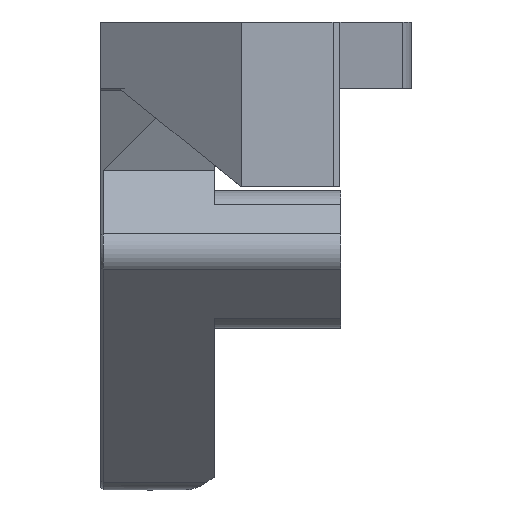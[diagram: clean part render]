
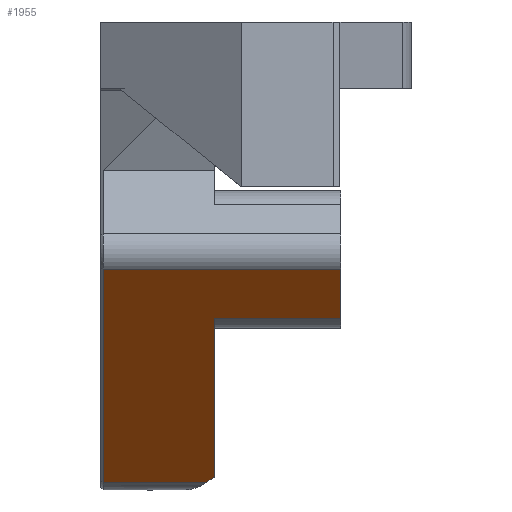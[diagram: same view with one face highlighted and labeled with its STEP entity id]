
A CAD part, left-side view. The second image highlights one B-rep face of the part: STEP entity #1955.
In plain terms, the highlighted planar face has unit normal (-0.707, 0, -0.707).
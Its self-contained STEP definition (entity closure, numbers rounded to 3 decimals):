
#24=ELLIPSE('',#2071,16.263,11.5);
#162=PLANE('',#2075);
#245=FACE_OUTER_BOUND('',#372,.T.);
#372=EDGE_LOOP('',(#1643,#1644,#1645,#1646,#1647,#1648,#1649));
#436=LINE('',#2714,#599);
#538=LINE('',#4188,#701);
#539=LINE('',#4192,#702);
#540=LINE('',#4194,#703);
#541=LINE('',#4196,#704);
#542=LINE('',#4197,#705);
#599=VECTOR('',#2167,10.);
#701=VECTOR('',#2395,2.133);
#702=VECTOR('',#2400,10.);
#703=VECTOR('',#2401,10.);
#704=VECTOR('',#2402,10.);
#705=VECTOR('',#2403,10.);
#827=VERTEX_POINT('',#2711);
#828=VERTEX_POINT('',#2713);
#964=VERTEX_POINT('',#4177);
#965=VERTEX_POINT('',#4187);
#966=VERTEX_POINT('',#4191);
#967=VERTEX_POINT('',#4193);
#968=VERTEX_POINT('',#4195);
#1014=EDGE_CURVE('',#828,#827,#436,.T.);
#1207=EDGE_CURVE('',#964,#828,#24,.T.);
#1209=EDGE_CURVE('',#964,#965,#538,.T.);
#1211=EDGE_CURVE('',#966,#827,#539,.T.);
#1212=EDGE_CURVE('',#967,#966,#540,.T.);
#1213=EDGE_CURVE('',#968,#967,#541,.T.);
#1214=EDGE_CURVE('',#965,#968,#542,.T.);
#1643=ORIENTED_EDGE('',*,*,#1207,.T.);
#1644=ORIENTED_EDGE('',*,*,#1014,.T.);
#1645=ORIENTED_EDGE('',*,*,#1211,.F.);
#1646=ORIENTED_EDGE('',*,*,#1212,.F.);
#1647=ORIENTED_EDGE('',*,*,#1213,.F.);
#1648=ORIENTED_EDGE('',*,*,#1214,.F.);
#1649=ORIENTED_EDGE('',*,*,#1209,.F.);
#1955=ADVANCED_FACE('',(#245),#162,.T.);
#2071=AXIS2_PLACEMENT_3D('',#4178,#2389,#2390);
#2075=AXIS2_PLACEMENT_3D('',#4190,#2398,#2399);
#2167=DIRECTION('',(-0.707,0.,0.707));
#2389=DIRECTION('center_axis',(0.707,0.,0.707));
#2390=DIRECTION('ref_axis',(-0.707,0.,0.707));
#2395=DIRECTION('',(0.,1.,0.));
#2398=DIRECTION('center_axis',(-0.707,0.,
-0.707));
#2399=DIRECTION('ref_axis',(0.707,0.,-0.707));
#2400=DIRECTION('',(0.,1.,0.));
#2401=DIRECTION('',(0.707,0.,-0.707));
#2402=DIRECTION('',(0.,-1.,0.));
#2403=DIRECTION('',(-0.707,0.,0.707));
#2711=CARTESIAN_POINT('',(8.775,42.458,12.237));
#2713=CARTESIAN_POINT('',(22.432,42.458,-1.421));
#2714=CARTESIAN_POINT('',(6.651,42.458,14.36));
#4177=CARTESIAN_POINT('',(22.898,43.185,-1.887));
#4178=CARTESIAN_POINT('Origin',(32.34,36.62,-11.328));
#4187=CARTESIAN_POINT('',(22.898,52.008,-1.887));
#4188=CARTESIAN_POINT('',(22.898,50.261,-1.887));
#4190=CARTESIAN_POINT('Origin',(4.55,51.908,16.462));
#4191=CARTESIAN_POINT('',(8.775,31.62,12.237));
#4192=CARTESIAN_POINT('',(8.775,46.636,12.237));
#4193=CARTESIAN_POINT('',(4.55,31.62,16.462));
#4194=CARTESIAN_POINT('',(10.867,31.62,10.145));
#4195=CARTESIAN_POINT('',(4.55,52.008,16.462));
#4196=CARTESIAN_POINT('',(4.55,40.858,16.462));
#4197=CARTESIAN_POINT('',(10.867,52.008,10.145));
